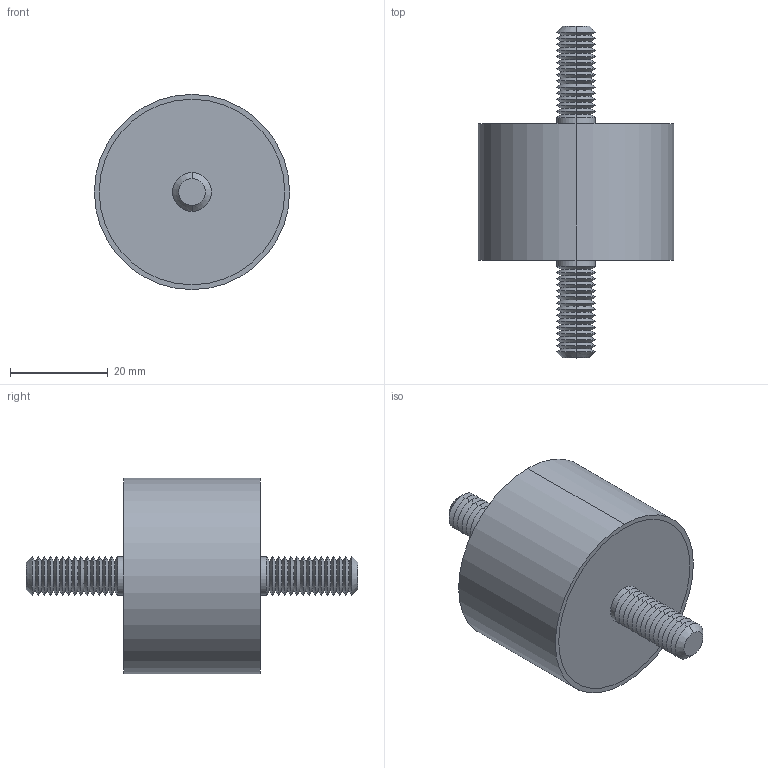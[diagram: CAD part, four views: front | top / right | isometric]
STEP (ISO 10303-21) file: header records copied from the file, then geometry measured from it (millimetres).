
FILE_DESCRIPTION (( 'STEP AP203' ), '1' );
FILE_NAME ('61040.W0404.step', '2019-09-24T22:35:24', ( '' ), ( '' ), 'SwSTEP 2.0', 'SolidWorks 2017', '' );
FILE_SCHEMA (( 'CONFIG_CONTROL_DESIGN' ));
Length unit declared in the file: millimetre
Products named in the file (4): Part1_61040.W0404; Part2_61040.W0404; 61040.W0404; Part3_61040.W0404
Assembly tree (3 placements, depth 2):
  61040.W0404
    Part1_61040.W0404
    Part2_61040.W0404
    Part3_61040.W0404
Bounding box: 40 x 68 x 40 mm (x, y, z)
Volume: 36728.1 mm3; surface area: 12651.9 mm2
Topology: 3 solids, 3 shells, 140 faces, 274 edges, 144 vertices
Faces by surface type: cone 116, cylinder 14, plane 10
Entity records: 3908 total; most frequent: DIRECTION 710, CARTESIAN_POINT 564, ORIENTED_EDGE 548, AXIS2_PLACEMENT_3D 290, EDGE_CURVE 274, EDGE_LOOP 144, VERTEX_POINT 144, CIRCLE 144
